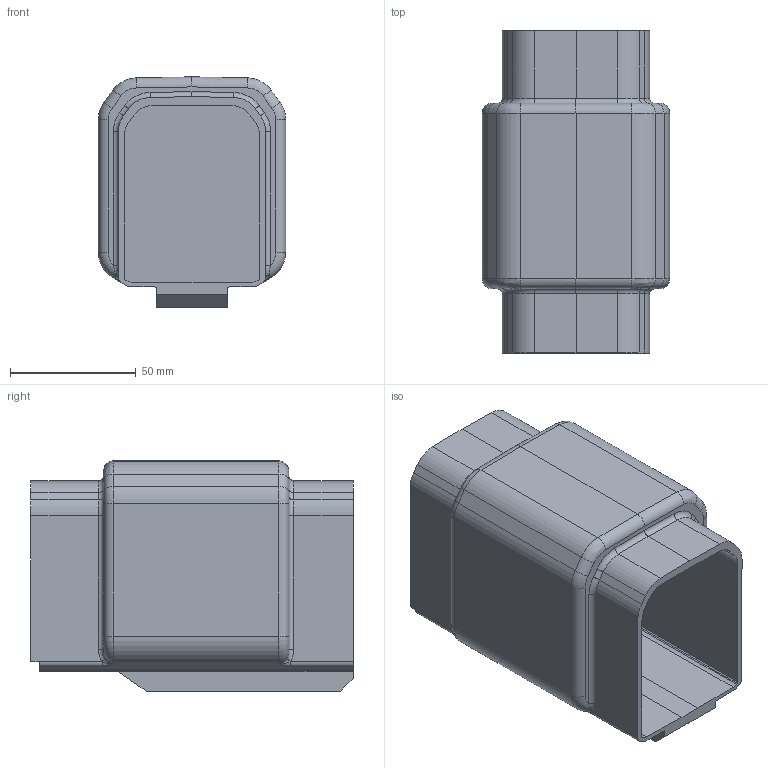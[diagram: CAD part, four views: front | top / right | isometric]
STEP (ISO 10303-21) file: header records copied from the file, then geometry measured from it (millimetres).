
FILE_DESCRIPTION(/* description */ ('Unknown'),/* implementation_level */ '2;1');
FILE_NAME(/* name */ 'MI2400_Capot de fermeture Inno_SPL',/* time_stamp */ '2018-08-09T17:16:04+02:00',/* author */ ('Unknown'),/* organization */ ('Unknown'),/* preprocessor_version */ 'ST-DEVELOPER v16.7',/* originating_system */ 'DEX',/* authorisation */ $);
FILE_SCHEMA (('AUTOMOTIVE_DESIGN {1 0 10303 214 3 1 1}'));
Length unit declared in the file: millimetre
Products named in the file (1): MI2400_Capot de fermeture Inno_SPL
Bounding box: 74.6 x 128.3 x 91.66 mm (x, y, z)
Volume: 486543.1 mm3; surface area: 60643.8 mm2
Topology: 1 solids, 1 shells, 133 faces, 334 edges, 200 vertices
Faces by surface type: cylinder 54, plane 45, bspline 18, torus 16
Entity records: 4468 total; most frequent: CARTESIAN_POINT 1294, DIRECTION 666, ORIENTED_EDGE 660, EDGE_CURVE 330, AXIS2_PLACEMENT_3D 244, VERTEX_POINT 200, LINE 178, VECTOR 178
